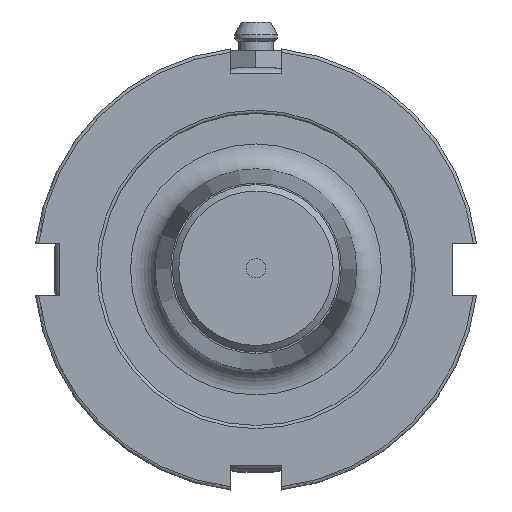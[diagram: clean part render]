
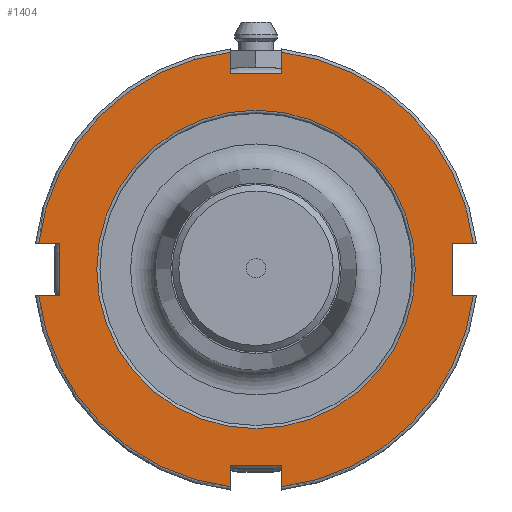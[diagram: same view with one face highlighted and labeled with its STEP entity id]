
A CAD part, top view. The second image highlights one B-rep face of the part: STEP entity #1404.
In plain terms, the highlighted planar face has unit normal (0, 0, 1).
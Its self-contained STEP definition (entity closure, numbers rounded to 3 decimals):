
#73=LINE('',#2356,#161);
#77=LINE('',#2375,#165);
#80=LINE('',#2403,#168);
#84=LINE('',#2423,#172);
#88=LINE('',#2442,#176);
#91=LINE('',#2470,#179);
#95=LINE('',#2490,#183);
#99=LINE('',#2509,#187);
#102=LINE('',#2537,#190);
#107=LINE('',#2597,#195);
#109=LINE('',#2601,#197);
#114=LINE('',#2632,#202);
#161=VECTOR('',#1719,10.);
#165=VECTOR('',#1725,10.);
#168=VECTOR('',#1730,10.);
#172=VECTOR('',#1736,10.);
#176=VECTOR('',#1742,10.);
#179=VECTOR('',#1747,10.);
#183=VECTOR('',#1753,10.);
#187=VECTOR('',#1759,10.);
#190=VECTOR('',#1764,10.);
#195=VECTOR('',#1825,10.);
#197=VECTOR('',#1829,10.);
#202=VECTOR('',#1836,10.);
#254=FACE_BOUND('',#430,.T.);
#281=PLANE('',#1555);
#344=FACE_OUTER_BOUND('',#429,.T.);
#429=EDGE_LOOP('',(#1105,#1106,#1107,#1108,#1109,#1110,#1111,#1112,#1113,
#1114,#1115,#1116,#1117,#1118,#1119,#1120));
#430=EDGE_LOOP('',(#1121));
#507=CIRCLE('',#1532,34.);
#508=CIRCLE('',#1534,34.);
#509=CIRCLE('',#1536,34.);
#511=CIRCLE('',#1542,34.);
#518=CIRCLE('',#1554,24.75);
#592=VERTEX_POINT('',#2353);
#593=VERTEX_POINT('',#2355);
#597=VERTEX_POINT('',#2373);
#601=VERTEX_POINT('',#2392);
#605=VERTEX_POINT('',#2420);
#606=VERTEX_POINT('',#2422);
#610=VERTEX_POINT('',#2440);
#614=VERTEX_POINT('',#2459);
#618=VERTEX_POINT('',#2487);
#619=VERTEX_POINT('',#2489);
#623=VERTEX_POINT('',#2507);
#627=VERTEX_POINT('',#2526);
#633=VERTEX_POINT('',#2579);
#634=VERTEX_POINT('',#2596);
#635=VERTEX_POINT('',#2600);
#638=VERTEX_POINT('',#2607);
#643=VERTEX_POINT('',#2648);
#733=EDGE_CURVE('',#593,#592,#73,.T.);
#738=EDGE_CURVE('',#592,#597,#77,.T.);
#743=EDGE_CURVE('',#597,#601,#80,.T.);
#748=EDGE_CURVE('',#606,#605,#84,.T.);
#753=EDGE_CURVE('',#605,#610,#88,.T.);
#758=EDGE_CURVE('',#610,#614,#91,.T.);
#763=EDGE_CURVE('',#619,#618,#95,.T.);
#768=EDGE_CURVE('',#618,#623,#99,.T.);
#773=EDGE_CURVE('',#623,#627,#102,.T.);
#791=EDGE_CURVE('',#619,#633,#507,.T.);
#793=EDGE_CURVE('',#606,#627,#508,.T.);
#794=EDGE_CURVE('',#593,#614,#509,.T.);
#795=EDGE_CURVE('',#634,#633,#107,.T.);
#797=EDGE_CURVE('',#635,#634,#109,.T.);
#804=EDGE_CURVE('',#638,#635,#114,.T.);
#806=EDGE_CURVE('',#638,#601,#511,.T.);
#813=EDGE_CURVE('',#643,#643,#518,.T.);
#1105=ORIENTED_EDGE('',*,*,#743,.T.);
#1106=ORIENTED_EDGE('',*,*,#806,.F.);
#1107=ORIENTED_EDGE('',*,*,#804,.T.);
#1108=ORIENTED_EDGE('',*,*,#797,.T.);
#1109=ORIENTED_EDGE('',*,*,#795,.T.);
#1110=ORIENTED_EDGE('',*,*,#791,.F.);
#1111=ORIENTED_EDGE('',*,*,#763,.T.);
#1112=ORIENTED_EDGE('',*,*,#768,.T.);
#1113=ORIENTED_EDGE('',*,*,#773,.T.);
#1114=ORIENTED_EDGE('',*,*,#793,.F.);
#1115=ORIENTED_EDGE('',*,*,#748,.T.);
#1116=ORIENTED_EDGE('',*,*,#753,.T.);
#1117=ORIENTED_EDGE('',*,*,#758,.T.);
#1118=ORIENTED_EDGE('',*,*,#794,.F.);
#1119=ORIENTED_EDGE('',*,*,#733,.T.);
#1120=ORIENTED_EDGE('',*,*,#738,.T.);
#1121=ORIENTED_EDGE('',*,*,#813,.F.);
#1404=ADVANCED_FACE('',(#344,#254),#281,.T.);
#1532=AXIS2_PLACEMENT_3D('',#2580,#1813,#1814);
#1534=AXIS2_PLACEMENT_3D('',#2592,#1817,#1818);
#1536=AXIS2_PLACEMENT_3D('',#2594,#1821,#1822);
#1542=AXIS2_PLACEMENT_3D('',#2635,#1841,#1842);
#1554=AXIS2_PLACEMENT_3D('',#2650,#1865,#1866);
#1555=AXIS2_PLACEMENT_3D('',#2651,#1867,#1868);
#1719=DIRECTION('',(-1.,0.,0.));
#1725=DIRECTION('',(0.,1.,0.));
#1730=DIRECTION('',(1.,0.,0.));
#1736=DIRECTION('',(0.,1.,0.));
#1742=DIRECTION('',(1.,0.,0.));
#1747=DIRECTION('',(0.,-1.,0.));
#1753=DIRECTION('',(1.,0.,0.));
#1759=DIRECTION('',(0.,-1.,0.));
#1764=DIRECTION('',(-1.,0.,0.));
#1813=DIRECTION('center_axis',(0.,0.,-1.));
#1814=DIRECTION('ref_axis',(-1.,0.,0.));
#1817=DIRECTION('center_axis',(0.,0.,-1.));
#1818=DIRECTION('ref_axis',(-1.,0.,0.));
#1821=DIRECTION('center_axis',(0.,0.,-1.));
#1822=DIRECTION('ref_axis',(-1.,0.,0.));
#1825=DIRECTION('',(0.,1.,0.));
#1829=DIRECTION('',(-1.,0.,0.));
#1836=DIRECTION('',(0.,-1.,0.));
#1841=DIRECTION('center_axis',(0.,0.,-1.));
#1842=DIRECTION('ref_axis',(-1.,0.,0.));
#1865=DIRECTION('center_axis',(0.,0.,1.));
#1866=DIRECTION('ref_axis',(-1.,0.,0.));
#1867=DIRECTION('center_axis',(0.,0.,1.));
#1868=DIRECTION('ref_axis',(1.,0.,0.));
#2353=CARTESIAN_POINT('',(30.5,-4.,-105.5));
#2355=CARTESIAN_POINT('',(33.764,-4.,-105.5));
#2356=CARTESIAN_POINT('',(29.259,-4.,-105.5));
#2373=CARTESIAN_POINT('',(30.5,4.,-105.5));
#2375=CARTESIAN_POINT('',(30.5,-2.,-105.5));
#2392=CARTESIAN_POINT('',(33.764,4.,-105.5));
#2403=CARTESIAN_POINT('',(27.375,4.,-105.5));
#2420=CARTESIAN_POINT('',(-4.,-30.5,-105.5));
#2422=CARTESIAN_POINT('',(-4.,-33.764,-105.5));
#2423=CARTESIAN_POINT('',(-4.,-17.134,-105.5));
#2440=CARTESIAN_POINT('',(4.,-30.5,-105.5));
#2442=CARTESIAN_POINT('',(10.125,-30.5,-105.5));
#2459=CARTESIAN_POINT('',(4.,-33.764,-105.5));
#2470=CARTESIAN_POINT('',(4.,-15.25,-105.5));
#2487=CARTESIAN_POINT('',(-30.5,4.,-105.5));
#2489=CARTESIAN_POINT('',(-33.764,4.,-105.5));
#2490=CARTESIAN_POINT('',(-5.009,4.,-105.5));
#2507=CARTESIAN_POINT('',(-30.5,-4.,-105.5));
#2509=CARTESIAN_POINT('',(-30.5,2.,-105.5));
#2526=CARTESIAN_POINT('',(-33.764,-4.,-105.5));
#2537=CARTESIAN_POINT('',(-3.125,-4.,-105.5));
#2579=CARTESIAN_POINT('',(-4.,33.764,-105.5));
#2580=CARTESIAN_POINT('Origin',(0.,0.,-105.5));
#2592=CARTESIAN_POINT('Origin',(0.,0.,-105.5));
#2594=CARTESIAN_POINT('Origin',(0.,0.,-105.5));
#2596=CARTESIAN_POINT('',(-4.,30.5,-105.5));
#2597=CARTESIAN_POINT('',(-4.,15.25,-105.5));
#2600=CARTESIAN_POINT('',(4.,30.5,-105.5));
#2601=CARTESIAN_POINT('',(14.125,30.5,-105.5));
#2607=CARTESIAN_POINT('',(4.,33.764,-105.5));
#2632=CARTESIAN_POINT('',(4.,17.134,-105.5));
#2635=CARTESIAN_POINT('Origin',(0.,0.,-105.5));
#2648=CARTESIAN_POINT('',(-24.75,0.,-105.5));
#2650=CARTESIAN_POINT('Origin',(0.,0.,-105.5));
#2651=CARTESIAN_POINT('Origin',(24.25,0.,-105.5));
